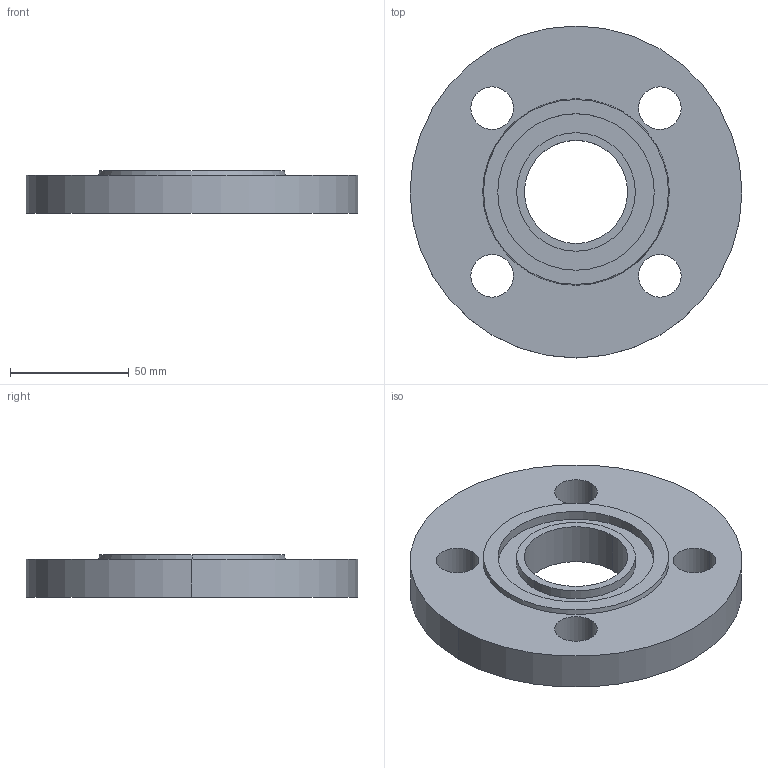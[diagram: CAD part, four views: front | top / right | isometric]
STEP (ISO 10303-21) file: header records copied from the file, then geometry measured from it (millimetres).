
FILE_DESCRIPTION (( 'STEP AP214' ), '1' );
FILE_NAME ('PN40 DN32 Type 01 - Type D Face.STEP', '2018-12-30T00:10:19', ( '' ), ( '' ), 'SwSTEP 2.0', 'SolidWorks 2019', '' );
FILE_SCHEMA (( 'AUTOMOTIVE_DESIGN' ));
Length unit declared in the file: millimetre
Products named in the file (1): PN40 DN32 Type 01 - Type D Face
Bounding box: 140 x 140 x 18 mm (x, y, z)
Volume: 207076.4 mm3; surface area: 40766.5 mm2
Topology: 1 solids, 1 shells, 23 faces, 54 edges, 36 vertices
Faces by surface type: cylinder 16, plane 5, cone 2
Entity records: 738 total; most frequent: DIRECTION 138, CARTESIAN_POINT 114, ORIENTED_EDGE 108, AXIS2_PLACEMENT_3D 60, EDGE_CURVE 54, VERTEX_POINT 36, EDGE_LOOP 36, CIRCLE 36
